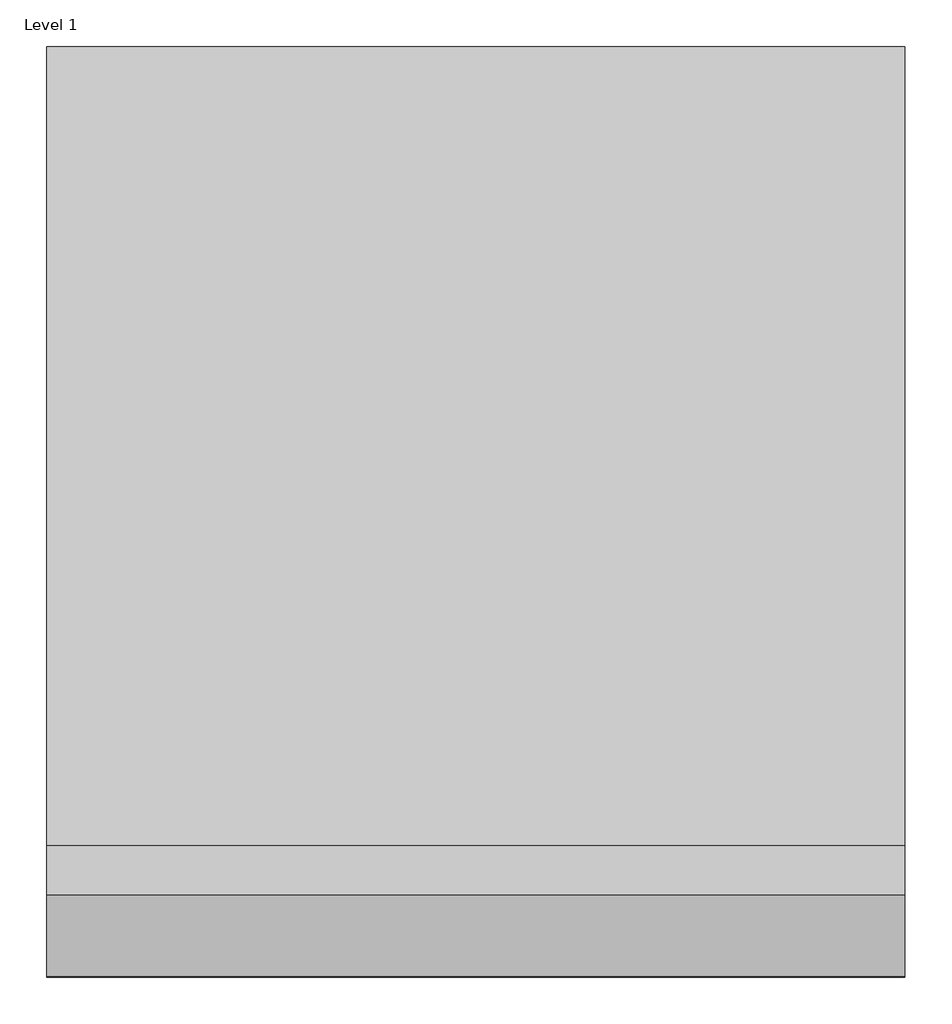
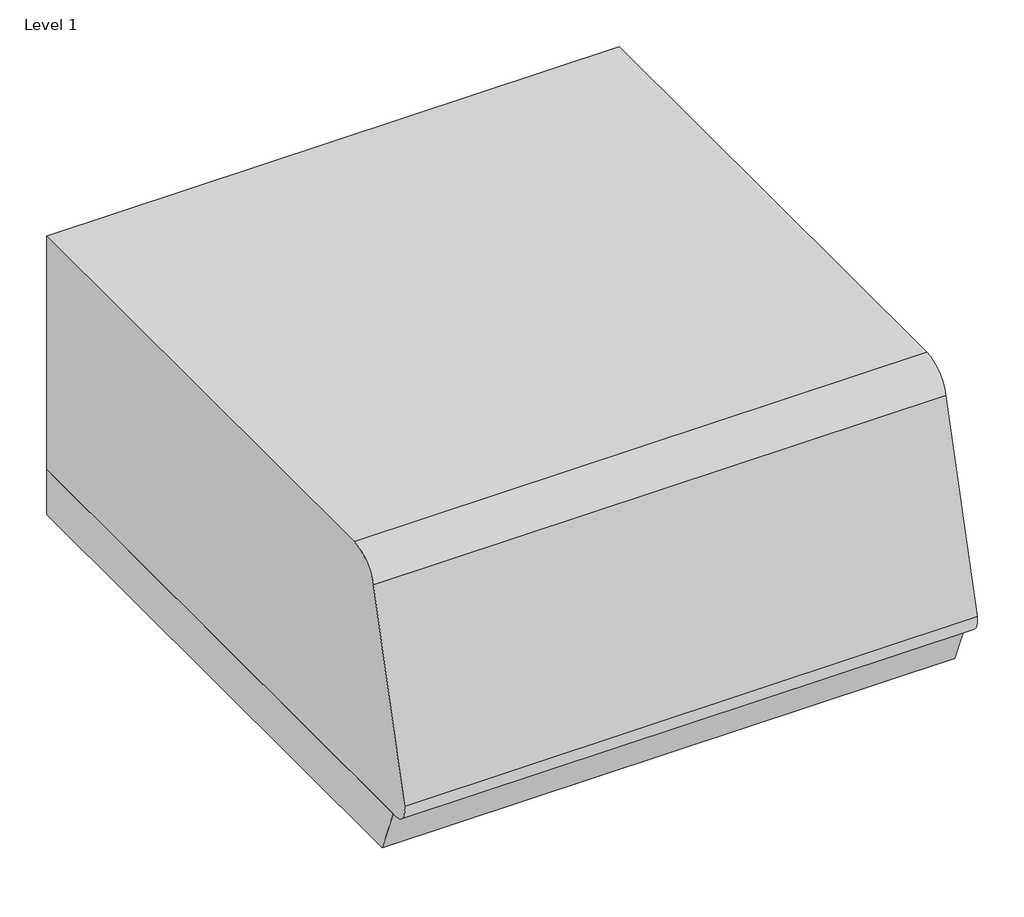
# One storey: 1 furniture element.
"""IFC4 building model written with IfcOpenShell, lengths in millimetres."""

from ifc_helpers import new_model, si_unit, origin, place, context, project, spatial, transform, mapped, element, save
from components import furniture_2655b0b1

model = new_model("IFC4")

# Units and contexts
model_context = context("Model", 3, world=origin())
ifc_project = project(units=[si_unit("LENGTHUNIT", "METRE", prefix="MILLI")], contexts=[model_context])

# Site, building, storey
site = spatial("IfcSite", under=ifc_project)
building = spatial("IfcBuilding", under=site)
storey = spatial("IfcBuildingStorey", under=building, Name="Level 1", Elevation=0.0)

# Furniture
placement = place(None, origin())
furniture_shape = furniture_2655b0b1(model_context)
element("IfcFurniture", 1, ObjectType="TMOT-CF_Group-Moss_Tier-Otto : TM-OT", at=placement, inside=storey, context=model_context, shape_type="MappedRepresentation", body=[
    mapped(furniture_shape, transform((1728.517491, 2774.360193, 0.0), x_axis=(1.0, 0.0, 0.0), y_axis=(0.0, 1.0, 0.0), z_axis=(0.0, 0.0, 1.0))),
])

save(model, "model.ifc")
